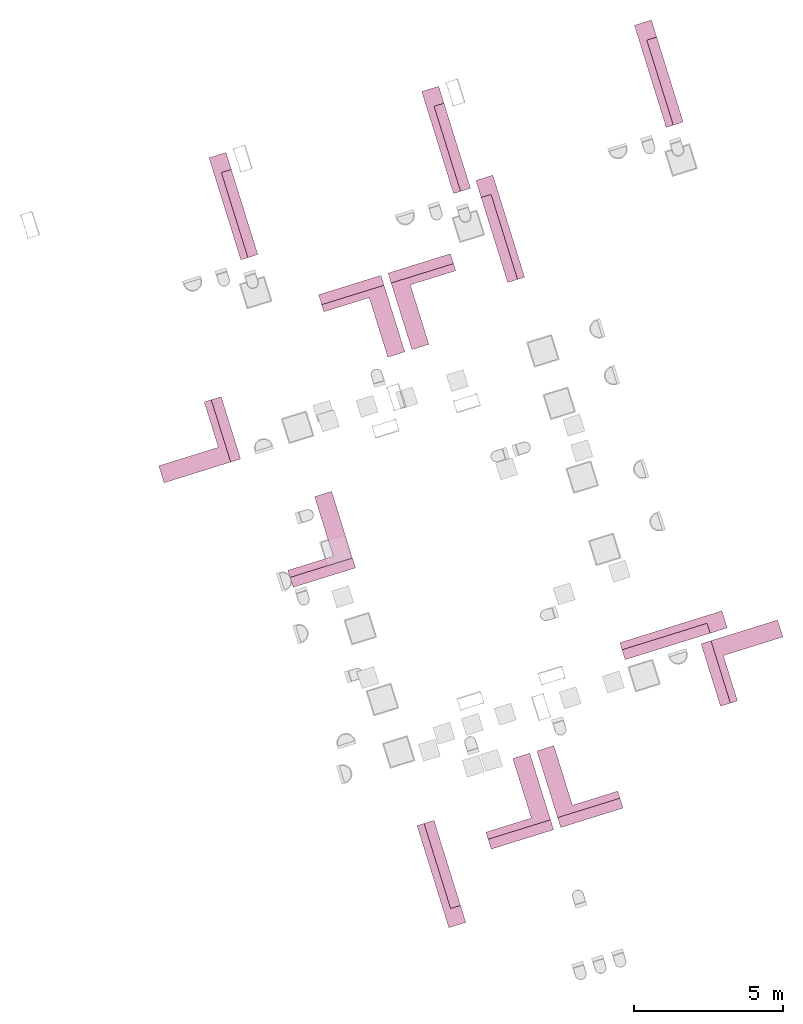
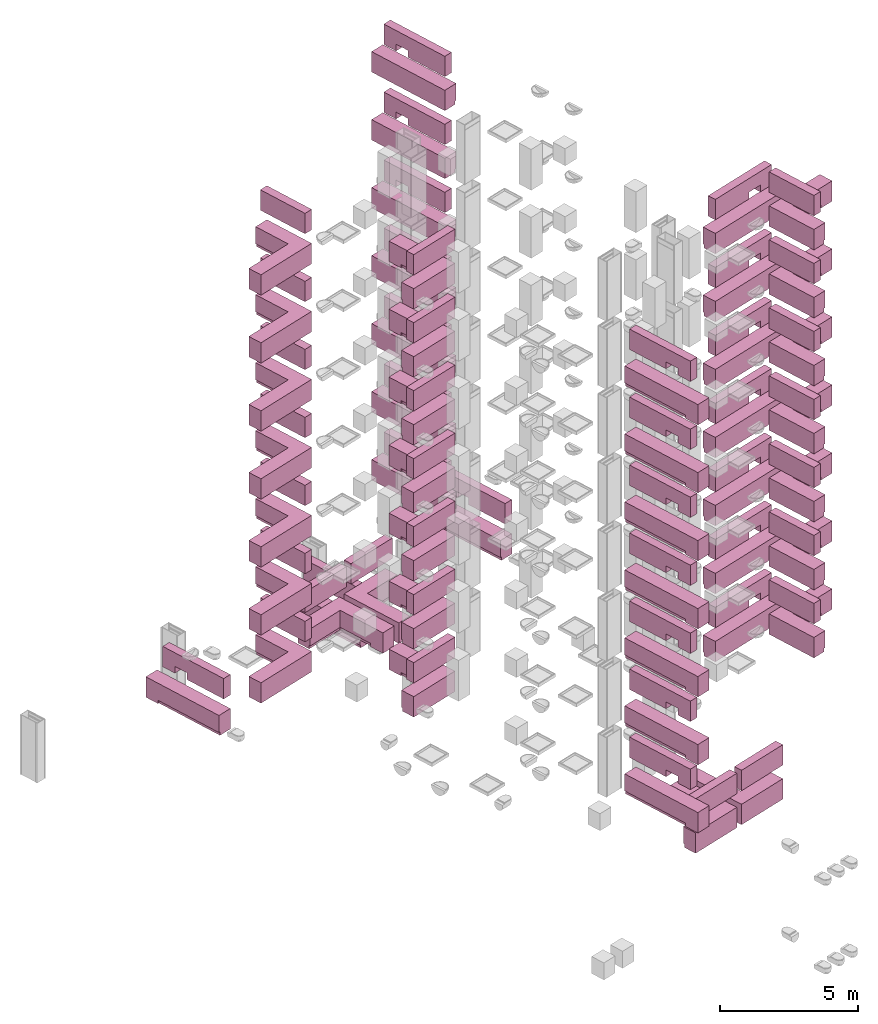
# Not in any storey, part 17 of 17: 49 furniture elements.
"""IFC4 model written with IfcOpenShell, lengths in metres."""

from ifc_helpers import new_model, entity, si_unit, converted_unit, direction, frame, origin, place, context, subcontext, project, indexed_curve, outline, extrude, polygons, source, transform, mapped, material, type_object, type_shapes, element, save


model = new_model("IFC4")

# Units and contexts
model_context = context("Model", 3, precision=1e-05, world=origin(), true_north=direction((6.12323399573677e-17, 1.0)))
body_context = subcontext(model_context, "Body", "Model", "MODEL_VIEW")
ifc_project = project(units=[si_unit("LENGTHUNIT", "METRE"), si_unit("AREAUNIT", "SQUARE_METRE"), converted_unit("PLANEANGLEUNIT", "DEGREE", entity("IfcPlaneAngleMeasure", 0.0174532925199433), si_unit("PLANEANGLEUNIT", "RADIAN"), dimensions=[0, 0, 0, 0, 0, 0, 0]), si_unit("VOLUMEUNIT", "CUBIC_METRE")], contexts=[model_context])

# Furniture
ifc_material = material(Name="<Unnamed>")
furniture_type_1 = type_object("IfcFurnitureType", Name="NLRS_73_CASE_LB_keukenblok L a_gen:keukenblok hoek 2700x2100", AssemblyPlace="NOTDEFINED", PredefinedType="NOTDEFINED", material=ifc_material)
shared_shape_1 = source(origin(), body_context, "Body", "Tessellation", [
    polygons([(0.549999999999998, -2.2, 0.0), (0.549999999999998, -2.2, 0.15), (0.599999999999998, -2.2, 0.15), (0.599999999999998, -2.2, 0.899999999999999), (-1.75965908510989e-15, -2.2, 0.899999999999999), (-1.75965908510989e-15, -2.2, 0.0), (-4.28634905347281e-16, -4.74882355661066e-15, 0.0), (2.1, -5.88809001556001e-15, 0.0), (2.1, -0.550000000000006, 0.0), (0.55, -0.550000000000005, 0.0), (-4.45554704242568e-16, -4.78266315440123e-15, 0.899999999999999), (0.6, -0.600000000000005, 0.899999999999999), (2.1, -0.600000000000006, 0.899999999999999), (2.1, -5.92192961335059e-15, 0.899999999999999), (0.6, -0.600000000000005, 0.15), (2.1, -0.600000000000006, 0.15), (2.1, -0.550000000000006, 0.15), (0.55, -0.550000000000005, 0.15)], [[[1, 2, 3, 4, 5, 6]], [[6, 7, 8, 9, 10, 1]], [[5, 11, 7, 6]], [[4, 12, 13, 14, 11, 5]], [[3, 15, 12, 4]], [[9, 8, 14, 13, 16, 17]], [[11, 14, 8, 7]], [[15, 16, 13, 12]], [[2, 18, 17, 16, 15, 3]], [[1, 10, 18, 2]], [[10, 9, 17, 18]]], closed=True),
    polygons([(2.7, 0.0, 0.899999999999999), (2.1, 0.0, 0.899999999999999), (2.1, -0.599999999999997, 0.899999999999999), (2.7, -0.599999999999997, 0.899999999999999), (2.7, 0.0, 0.0), (2.7, -0.599999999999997, 0.0), (2.1, -0.599999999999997, 0.0), (2.1, 0.0, 0.0)], [[[1, 2, 3, 4]], [[5, 6, 7, 8]], [[4, 6, 5, 1]], [[3, 7, 6, 4]], [[2, 8, 7, 3]], [[1, 5, 8, 2]]], closed=True),
    polygons([(7.03863634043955e-15, -1.54308565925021e-14, 1.5), (7.03863634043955e-15, -1.54308565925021e-14, 2.4), (0.350000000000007, -1.0950194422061e-14, 2.4), (0.350000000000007, -1.0950194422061e-14, 1.5), (0.350000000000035, -2.20000000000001, 2.4), (0.350000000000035, -2.20000000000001, 1.5), (3.51931817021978e-14, -2.20000000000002, 2.4), (3.51931817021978e-14, -2.20000000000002, 1.5)], [[[1, 2, 3, 4]], [[3, 5, 6, 4]], [[2, 7, 5, 3]], [[1, 8, 7, 2]], [[8, 6, 5, 7]], [[4, 6, 8, 1]]], closed=True),
])
type_shapes(furniture_type_1, [shared_shape_1])
placement_1 = place(None, frame((13.1347999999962, 11.9886000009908, 0.0), z_axis=(0.0, 0.0, 1.0), x_axis=(0.954770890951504, 0.297342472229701, 0.0)))
placement_2 = place(placement_1, origin())
placement_3 = place(placement_2, frame((0.0, 0.0, 6.9)))
placement_4 = place(placement_3, origin())
furniture_1_placement = place(placement_4, frame((75.2250000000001, 11.7749999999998, 0.0)))
element("IfcFurniture", 1, at=furniture_1_placement, type_object=furniture_type_1, material=ifc_material, Name="NLRS_73_CASE_LB_keukenblok L a_gen:keukenblok hoek 2700x2100", ObjectType="NLRS_73_CASE_LB_keukenblok L a_gen:keukenblok hoek 2700x2100", PredefinedType="NOTDEFINED", context=body_context, shape_type="MappedRepresentation", body=[
    mapped(shared_shape_1, transform((0.0, 0.0, 0.0), scale=1.0)),
])
placement_5 = place(placement_2, frame((0.0, 0.0, 9.9)))
placement_6 = place(placement_5, origin())
furniture_2_placement = place(placement_6, frame((75.2250000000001, 11.7749999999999, 0.0)))
element("IfcFurniture", 2, at=furniture_2_placement, type_object=furniture_type_1, material=ifc_material, Name="NLRS_73_CASE_LB_keukenblok L a_gen:keukenblok hoek 2700x2100", ObjectType="NLRS_73_CASE_LB_keukenblok L a_gen:keukenblok hoek 2700x2100", PredefinedType="NOTDEFINED", context=body_context, shape_type="MappedRepresentation", body=[
    mapped(shared_shape_1, transform((0.0, 0.0, 0.0), scale=1.0)),
])
placement_7 = place(placement_2, frame((0.0, 0.0, 12.9)))
placement_8 = place(placement_7, origin())
furniture_3_placement = place(placement_8, frame((75.2250000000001, 11.7749999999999, 0.0)))
element("IfcFurniture", 3, at=furniture_3_placement, type_object=furniture_type_1, material=ifc_material, Name="NLRS_73_CASE_LB_keukenblok L a_gen:keukenblok hoek 2700x2100", ObjectType="NLRS_73_CASE_LB_keukenblok L a_gen:keukenblok hoek 2700x2100", PredefinedType="NOTDEFINED", context=body_context, shape_type="MappedRepresentation", body=[
    mapped(shared_shape_1, transform((0.0, 0.0, 0.0), scale=1.0)),
])
placement_9 = place(placement_2, frame((0.0, 0.0, 15.9)))
placement_10 = place(placement_9, origin())
furniture_4_placement = place(placement_10, frame((75.2250000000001, 11.7749999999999, 0.0)))
element("IfcFurniture", 4, at=furniture_4_placement, type_object=furniture_type_1, material=ifc_material, Name="NLRS_73_CASE_LB_keukenblok L a_gen:keukenblok hoek 2700x2100", ObjectType="NLRS_73_CASE_LB_keukenblok L a_gen:keukenblok hoek 2700x2100", PredefinedType="NOTDEFINED", context=body_context, shape_type="MappedRepresentation", body=[
    mapped(shared_shape_1, transform((0.0, 0.0, 0.0), scale=1.0)),
])
placement_11 = place(placement_2, frame((0.0, 0.0, 18.9)))
placement_12 = place(placement_11, origin())
furniture_5_placement = place(placement_12, frame((75.2250000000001, 11.7749999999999, 0.0)))
element("IfcFurniture", 5, at=furniture_5_placement, type_object=furniture_type_1, material=ifc_material, Name="NLRS_73_CASE_LB_keukenblok L a_gen:keukenblok hoek 2700x2100", ObjectType="NLRS_73_CASE_LB_keukenblok L a_gen:keukenblok hoek 2700x2100", PredefinedType="NOTDEFINED", context=body_context, shape_type="MappedRepresentation", body=[
    mapped(shared_shape_1, transform((0.0, 0.0, 0.0), scale=1.0)),
])
placement_13 = place(placement_2, frame((0.0, 0.0, 21.9)))
placement_14 = place(placement_13, origin())
furniture_6_placement = place(placement_14, frame((75.2250000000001, 11.7749999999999, 0.0)))
element("IfcFurniture", 6, at=furniture_6_placement, type_object=furniture_type_1, material=ifc_material, Name="NLRS_73_CASE_LB_keukenblok L a_gen:keukenblok hoek 2700x2100", ObjectType="NLRS_73_CASE_LB_keukenblok L a_gen:keukenblok hoek 2700x2100", PredefinedType="NOTDEFINED", context=body_context, shape_type="MappedRepresentation", body=[
    mapped(shared_shape_1, transform((0.0, 0.0, 0.0), scale=1.0)),
])
placement_15 = place(placement_2, frame((0.0, 0.0, 24.9)))
placement_16 = place(placement_15, origin())
furniture_7_placement = place(placement_16, frame((75.2250000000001, 11.7749999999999, 0.0)))
element("IfcFurniture", 7, at=furniture_7_placement, type_object=furniture_type_1, material=ifc_material, Name="NLRS_73_CASE_LB_keukenblok L a_gen:keukenblok hoek 2700x2100", ObjectType="NLRS_73_CASE_LB_keukenblok L a_gen:keukenblok hoek 2700x2100", PredefinedType="NOTDEFINED", context=body_context, shape_type="MappedRepresentation", body=[
    mapped(shared_shape_1, transform((0.0, 0.0, 0.0), scale=1.0)),
])
placement_17 = place(placement_3, origin())
furniture_8_placement = place(placement_17, frame((62.2749999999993, 22.325, 0.0), z_axis=(0.0, 0.0, 1.0), x_axis=(-1.0, 0.0, 0.0)))
element("IfcFurniture", 8, at=furniture_8_placement, type_object=furniture_type_1, material=ifc_material, Name="NLRS_73_CASE_LB_keukenblok L a_gen:keukenblok hoek 2700x2100", ObjectType="NLRS_73_CASE_LB_keukenblok L a_gen:keukenblok hoek 2700x2100", PredefinedType="NOTDEFINED", context=body_context, shape_type="MappedRepresentation", body=[
    mapped(shared_shape_1, transform((0.0, 0.0, 0.0), scale=1.0)),
])
placement_18 = place(placement_5, origin())
furniture_9_placement = place(placement_18, frame((62.2749999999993, 22.325, 0.0), z_axis=(0.0, 0.0, 1.0), x_axis=(-1.0, 0.0, 0.0)))
element("IfcFurniture", 9, at=furniture_9_placement, type_object=furniture_type_1, material=ifc_material, Name="NLRS_73_CASE_LB_keukenblok L a_gen:keukenblok hoek 2700x2100", ObjectType="NLRS_73_CASE_LB_keukenblok L a_gen:keukenblok hoek 2700x2100", PredefinedType="NOTDEFINED", context=body_context, shape_type="MappedRepresentation", body=[
    mapped(shared_shape_1, transform((0.0, 0.0, 0.0), scale=1.0)),
])
placement_19 = place(placement_7, origin())
furniture_10_placement = place(placement_19, frame((62.2749999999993, 22.325, 0.0), z_axis=(0.0, 0.0, 1.0), x_axis=(-1.0, 0.0, 0.0)))
element("IfcFurniture", 10, at=furniture_10_placement, type_object=furniture_type_1, material=ifc_material, Name="NLRS_73_CASE_LB_keukenblok L a_gen:keukenblok hoek 2700x2100", ObjectType="NLRS_73_CASE_LB_keukenblok L a_gen:keukenblok hoek 2700x2100", PredefinedType="NOTDEFINED", context=body_context, shape_type="MappedRepresentation", body=[
    mapped(shared_shape_1, transform((0.0, 0.0, 0.0), scale=1.0)),
])
placement_20 = place(placement_9, origin())
furniture_11_placement = place(placement_20, frame((62.2749999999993, 22.325, 0.0), z_axis=(0.0, 0.0, 1.0), x_axis=(-1.0, 0.0, 0.0)))
element("IfcFurniture", 11, at=furniture_11_placement, type_object=furniture_type_1, material=ifc_material, Name="NLRS_73_CASE_LB_keukenblok L a_gen:keukenblok hoek 2700x2100", ObjectType="NLRS_73_CASE_LB_keukenblok L a_gen:keukenblok hoek 2700x2100", PredefinedType="NOTDEFINED", context=body_context, shape_type="MappedRepresentation", body=[
    mapped(shared_shape_1, transform((0.0, 0.0, 0.0), scale=1.0)),
])
placement_21 = place(placement_11, origin())
furniture_12_placement = place(placement_21, frame((62.2749999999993, 22.325, 0.0), z_axis=(0.0, 0.0, 1.0), x_axis=(-1.0, 0.0, 0.0)))
element("IfcFurniture", 12, at=furniture_12_placement, type_object=furniture_type_1, material=ifc_material, Name="NLRS_73_CASE_LB_keukenblok L a_gen:keukenblok hoek 2700x2100", ObjectType="NLRS_73_CASE_LB_keukenblok L a_gen:keukenblok hoek 2700x2100", PredefinedType="NOTDEFINED", context=body_context, shape_type="MappedRepresentation", body=[
    mapped(shared_shape_1, transform((0.0, 0.0, 0.0), scale=1.0)),
])
placement_22 = place(placement_13, origin())
furniture_13_placement = place(placement_22, frame((62.2749999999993, 22.325, 0.0), z_axis=(0.0, 0.0, 1.0), x_axis=(-1.0, 0.0, 0.0)))
element("IfcFurniture", 13, at=furniture_13_placement, type_object=furniture_type_1, material=ifc_material, Name="NLRS_73_CASE_LB_keukenblok L a_gen:keukenblok hoek 2700x2100", ObjectType="NLRS_73_CASE_LB_keukenblok L a_gen:keukenblok hoek 2700x2100", PredefinedType="NOTDEFINED", context=body_context, shape_type="MappedRepresentation", body=[
    mapped(shared_shape_1, transform((0.0, 0.0, 0.0), scale=1.0)),
])
placement_23 = place(placement_15, origin())
furniture_14_placement = place(placement_23, frame((62.2749999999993, 22.325, 0.0), z_axis=(0.0, 0.0, 1.0), x_axis=(-1.0, 0.0, 0.0)))
element("IfcFurniture", 14, at=furniture_14_placement, type_object=furniture_type_1, material=ifc_material, Name="NLRS_73_CASE_LB_keukenblok L a_gen:keukenblok hoek 2700x2100", ObjectType="NLRS_73_CASE_LB_keukenblok L a_gen:keukenblok hoek 2700x2100", PredefinedType="NOTDEFINED", context=body_context, shape_type="MappedRepresentation", body=[
    mapped(shared_shape_1, transform((0.0, 0.0, 0.0), scale=1.0)),
])
placement_24 = place(placement_2, frame((0.0, 0.0, 3.9)))
placement_25 = place(placement_24, origin())
furniture_15_placement = place(placement_25, frame((68.875, 7.27500000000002, 0.0), z_axis=(0.0, 0.0, 1.0), x_axis=(0.0, 1.0, 0.0)))
element("IfcFurniture", 15, at=furniture_15_placement, type_object=furniture_type_1, material=ifc_material, Name="NLRS_73_CASE_LB_keukenblok L a_gen:keukenblok hoek 2700x2100", ObjectType="NLRS_73_CASE_LB_keukenblok L a_gen:keukenblok hoek 2700x2100", PredefinedType="NOTDEFINED", context=body_context, shape_type="MappedRepresentation", body=[
    mapped(shared_shape_1, transform((0.0, 0.0, 0.0), scale=1.0)),
])
placement_26 = place(placement_24, origin())
furniture_16_placement = place(placement_26, frame((68.6249999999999, 26.8249999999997, 0.0), z_axis=(0.0, 0.0, 1.0), x_axis=(0.0, -1.0, 0.0)))
element("IfcFurniture", 16, at=furniture_16_placement, type_object=furniture_type_1, material=ifc_material, Name="NLRS_73_CASE_LB_keukenblok L a_gen:keukenblok hoek 2700x2100", ObjectType="NLRS_73_CASE_LB_keukenblok L a_gen:keukenblok hoek 2700x2100", PredefinedType="NOTDEFINED", context=body_context, shape_type="MappedRepresentation", body=[
    mapped(shared_shape_1, transform((0.0, 0.0, 0.0), scale=1.0)),
])
furniture_type_2 = type_object("IfcFurnitureType", Name="NLRS_73_CASE_LB_keukenblok a_gen:keukenblok 3200", AssemblyPlace="NOTDEFINED", PredefinedType="NOTDEFINED", material=ifc_material)
shared_shape_2 = source(origin(), body_context, "Body", "SweptSolid", [
    extrude(outline(indexed_curve([(-0.35, 0.166666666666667), (-0.35, -0.383333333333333), (0.55, -0.383333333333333), (0.55, 0.216666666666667), (-0.2, 0.216666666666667), (-0.2, 0.166666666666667), (-0.35, 0.166666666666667)], self_intersect=False)), frame((0.0, 0.383333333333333, 0.35), z_axis=(-1.0, 0.0, 0.0), x_axis=(0.0, 0.0, 1.0)), (0.0, 0.0, -1.0), 3.00000000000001),
    extrude(outline(indexed_curve([(-0.299999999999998, -0.3), (0.299999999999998, -0.3), (0.299999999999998, 0.3), (-0.299999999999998, 0.3), (-0.299999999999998, -0.3)], self_intersect=False)), frame((3.3, 0.299999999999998, 0.0), z_axis=(0.0, 0.0, 1.0), x_axis=(0.0, 1.0, 0.0)), (0.0, 0.0, 1.0), 0.9),
    extrude(outline(indexed_curve([(-1.19999999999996, -0.299999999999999), (-0.60000000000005, -0.299999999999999), (-0.60000000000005, -5.41433564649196e-16), (-5.00826047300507e-14, -5.41433564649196e-16), (-4.98118879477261e-14, -0.299999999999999), (1.80000000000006, -0.299999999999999), (1.80000000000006, 0.6), (-1.19999999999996, 0.6), (-1.19999999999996, -0.299999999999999)], self_intersect=False)), frame((1.80000000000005, 0.0, 1.8), z_axis=(0.0, 1.0, 0.0), x_axis=(-1.0, 0.0, 0.0)), (0.0, 0.0, 1.0), 0.349999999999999),
])
type_shapes(furniture_type_2, [shared_shape_2])
placement_27 = place(placement_2, origin())
placement_28 = place(placement_27, origin())
furniture_17_placement = place(placement_28, frame((64.8750000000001, 28.7249999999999, 0.0), z_axis=(0.0, 0.0, 1.0), x_axis=(0.0, 1.0, 0.0)))
element("IfcFurniture", 17, at=furniture_17_placement, type_object=furniture_type_2, material=ifc_material, Name="NLRS_73_CASE_LB_keukenblok a_gen:keukenblok 3200", ObjectType="NLRS_73_CASE_LB_keukenblok a_gen:keukenblok 3200", PredefinedType="NOTDEFINED", context=body_context, shape_type="MappedRepresentation", body=[
    mapped(shared_shape_2, transform((0.0, 0.0, 0.0), scale=1.0)),
])
placement_29 = place(placement_27, origin())
furniture_18_placement = place(placement_29, frame((72.3750000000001, 28.7249999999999, 0.0), z_axis=(0.0, 0.0, 1.0), x_axis=(0.0, 1.0, 0.0)))
element("IfcFurniture", 18, at=furniture_18_placement, type_object=furniture_type_2, material=ifc_material, Name="NLRS_73_CASE_LB_keukenblok a_gen:keukenblok 3200", ObjectType="NLRS_73_CASE_LB_keukenblok a_gen:keukenblok 3200", PredefinedType="NOTDEFINED", context=body_context, shape_type="MappedRepresentation", body=[
    mapped(shared_shape_2, transform((0.0, 0.0, 0.0), scale=1.0)),
])
placement_30 = place(placement_27, origin())
furniture_19_placement = place(placement_30, frame((79.875, 28.7249999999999, 0.0), z_axis=(0.0, 0.0, 1.0), x_axis=(0.0, 1.0, 0.0)))
element("IfcFurniture", 19, at=furniture_19_placement, type_object=furniture_type_2, material=ifc_material, Name="NLRS_73_CASE_LB_keukenblok a_gen:keukenblok 3200", ObjectType="NLRS_73_CASE_LB_keukenblok a_gen:keukenblok 3200", PredefinedType="NOTDEFINED", context=body_context, shape_type="MappedRepresentation", body=[
    mapped(shared_shape_2, transform((0.0, 0.0, 0.0), scale=1.0)),
])
placement_31 = place(placement_3, origin())
furniture_20_placement = place(placement_31, frame((72.625, 12.0249999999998, 0.0)))
element("IfcFurniture", 20, at=furniture_20_placement, type_object=furniture_type_2, material=ifc_material, Name="NLRS_73_CASE_LB_keukenblok a_gen:keukenblok 3200", ObjectType="NLRS_73_CASE_LB_keukenblok a_gen:keukenblok 3200", PredefinedType="NOTDEFINED", context=body_context, shape_type="MappedRepresentation", body=[
    mapped(shared_shape_2, transform((0.0, 0.0, 0.0), scale=1.0)),
])
placement_32 = place(placement_5, origin())
furniture_21_placement = place(placement_32, frame((72.625, 12.0249999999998, 0.0)))
element("IfcFurniture", 21, at=furniture_21_placement, type_object=furniture_type_2, material=ifc_material, Name="NLRS_73_CASE_LB_keukenblok a_gen:keukenblok 3200", ObjectType="NLRS_73_CASE_LB_keukenblok a_gen:keukenblok 3200", PredefinedType="NOTDEFINED", context=body_context, shape_type="MappedRepresentation", body=[
    mapped(shared_shape_2, transform((0.0, 0.0, 0.0), scale=1.0)),
])
placement_33 = place(placement_7, origin())
furniture_22_placement = place(placement_33, frame((72.625, 12.0249999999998, 0.0)))
element("IfcFurniture", 22, at=furniture_22_placement, type_object=furniture_type_2, material=ifc_material, Name="NLRS_73_CASE_LB_keukenblok a_gen:keukenblok 3200", ObjectType="NLRS_73_CASE_LB_keukenblok a_gen:keukenblok 3200", PredefinedType="NOTDEFINED", context=body_context, shape_type="MappedRepresentation", body=[
    mapped(shared_shape_2, transform((0.0, 0.0, 0.0), scale=1.0)),
])
placement_34 = place(placement_9, origin())
furniture_23_placement = place(placement_34, frame((72.625, 12.0249999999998, 0.0)))
element("IfcFurniture", 23, at=furniture_23_placement, type_object=furniture_type_2, material=ifc_material, Name="NLRS_73_CASE_LB_keukenblok a_gen:keukenblok 3200", ObjectType="NLRS_73_CASE_LB_keukenblok a_gen:keukenblok 3200", PredefinedType="NOTDEFINED", context=body_context, shape_type="MappedRepresentation", body=[
    mapped(shared_shape_2, transform((0.0, 0.0, 0.0), scale=1.0)),
])
placement_35 = place(placement_11, origin())
furniture_24_placement = place(placement_35, frame((72.625, 12.0249999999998, 0.0)))
element("IfcFurniture", 24, at=furniture_24_placement, type_object=furniture_type_2, material=ifc_material, Name="NLRS_73_CASE_LB_keukenblok a_gen:keukenblok 3200", ObjectType="NLRS_73_CASE_LB_keukenblok a_gen:keukenblok 3200", PredefinedType="NOTDEFINED", context=body_context, shape_type="MappedRepresentation", body=[
    mapped(shared_shape_2, transform((0.0, 0.0, 0.0), scale=1.0)),
])
placement_36 = place(placement_13, origin())
furniture_25_placement = place(placement_36, frame((72.625, 12.0249999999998, 0.0)))
element("IfcFurniture", 25, at=furniture_25_placement, type_object=furniture_type_2, material=ifc_material, Name="NLRS_73_CASE_LB_keukenblok a_gen:keukenblok 3200", ObjectType="NLRS_73_CASE_LB_keukenblok a_gen:keukenblok 3200", PredefinedType="NOTDEFINED", context=body_context, shape_type="MappedRepresentation", body=[
    mapped(shared_shape_2, transform((0.0, 0.0, 0.0), scale=1.0)),
])
placement_37 = place(placement_15, origin())
furniture_26_placement = place(placement_37, frame((72.625, 12.0249999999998, 0.0)))
element("IfcFurniture", 26, at=furniture_26_placement, type_object=furniture_type_2, material=ifc_material, Name="NLRS_73_CASE_LB_keukenblok a_gen:keukenblok 3200", ObjectType="NLRS_73_CASE_LB_keukenblok a_gen:keukenblok 3200", PredefinedType="NOTDEFINED", context=body_context, shape_type="MappedRepresentation", body=[
    mapped(shared_shape_2, transform((0.0, 0.0, 0.0), scale=1.0)),
])
furniture_type_3 = type_object("IfcFurnitureType", Name="NLRS_73_CASE_LB_keukenblok a_gen:keukenblok 3200", AssemblyPlace="NOTDEFINED", PredefinedType="NOTDEFINED", material=ifc_material)
shared_shape_3 = source(origin(), body_context, "Body", "SweptSolid", [
    extrude(outline(indexed_curve([(-0.166666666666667, -0.35), (0.383333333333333, -0.35), (0.383333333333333, 0.55), (-0.216666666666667, 0.55), (-0.216666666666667, -0.2), (-0.166666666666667, -0.2), (-0.166666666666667, -0.35)], self_intersect=False)), frame((0.0, -0.383333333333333, 0.35), z_axis=(1.0, 0.0, 0.0), x_axis=(0.0, 1.0, 0.0)), (0.0, 0.0, 1.0), 3.00000000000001),
    extrude(outline(indexed_curve([(-0.3, -0.299999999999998), (0.3, -0.299999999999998), (0.3, 0.299999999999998), (-0.3, 0.299999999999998), (-0.3, -0.299999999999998)], self_intersect=False)), frame((3.3, -0.299999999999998, 0.0), z_axis=(0.0, 0.0, 1.0), x_axis=(-1.0, 0.0, 0.0)), (0.0, 0.0, 1.0), 0.9),
    extrude(outline(indexed_curve([(-0.6, -1.19999999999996), (0.299999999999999, -1.19999999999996), (0.299999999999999, -0.600000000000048), (5.41433564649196e-16, -0.600000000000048), (5.41433564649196e-16, -4.81875872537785e-14), (0.299999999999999, -4.81875872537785e-14), (0.299999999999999, 1.80000000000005), (-0.6, 1.80000000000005), (-0.6, -1.19999999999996)], self_intersect=False)), frame((1.80000000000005, -0.34999999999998, 1.8), z_axis=(0.0, 1.0, 0.0), x_axis=(0.0, 0.0, -1.0)), (0.0, 0.0, 1.0), 0.349999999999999),
])
type_shapes(furniture_type_3, [shared_shape_3])
placement_38 = place(placement_3, origin())
furniture_27_placement = place(placement_38, frame((64.875, 8.77499999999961, 0.0), z_axis=(0.0, 0.0, 1.0), x_axis=(0.0, -1.0, 0.0)))
element("IfcFurniture", 27, at=furniture_27_placement, type_object=furniture_type_3, material=ifc_material, Name="NLRS_73_CASE_LB_keukenblok a_gen:keukenblok 3200", ObjectType="NLRS_73_CASE_LB_keukenblok a_gen:keukenblok 3200", PredefinedType="NOTDEFINED", context=body_context, shape_type="MappedRepresentation", body=[
    mapped(shared_shape_3, transform((0.0, 0.0, 0.0), scale=1.0)),
])
placement_39 = place(placement_5, origin())
furniture_28_placement = place(placement_39, frame((64.875, 8.77499999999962, 0.0), z_axis=(0.0, 0.0, 1.0), x_axis=(0.0, -1.0, 0.0)))
element("IfcFurniture", 28, at=furniture_28_placement, type_object=furniture_type_3, material=ifc_material, Name="NLRS_73_CASE_LB_keukenblok a_gen:keukenblok 3200", ObjectType="NLRS_73_CASE_LB_keukenblok a_gen:keukenblok 3200", PredefinedType="NOTDEFINED", context=body_context, shape_type="MappedRepresentation", body=[
    mapped(shared_shape_3, transform((0.0, 0.0, 0.0), scale=1.0)),
])
placement_40 = place(placement_7, origin())
furniture_29_placement = place(placement_40, frame((64.875, 8.77499999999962, 0.0), z_axis=(0.0, 0.0, 1.0), x_axis=(0.0, -1.0, 0.0)))
element("IfcFurniture", 29, at=furniture_29_placement, type_object=furniture_type_3, material=ifc_material, Name="NLRS_73_CASE_LB_keukenblok a_gen:keukenblok 3200", ObjectType="NLRS_73_CASE_LB_keukenblok a_gen:keukenblok 3200", PredefinedType="NOTDEFINED", context=body_context, shape_type="MappedRepresentation", body=[
    mapped(shared_shape_3, transform((0.0, 0.0, 0.0), scale=1.0)),
])
placement_41 = place(placement_9, origin())
furniture_30_placement = place(placement_41, frame((64.875, 8.77499999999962, 0.0), z_axis=(0.0, 0.0, 1.0), x_axis=(0.0, -1.0, 0.0)))
element("IfcFurniture", 30, at=furniture_30_placement, type_object=furniture_type_3, material=ifc_material, Name="NLRS_73_CASE_LB_keukenblok a_gen:keukenblok 3200", ObjectType="NLRS_73_CASE_LB_keukenblok a_gen:keukenblok 3200", PredefinedType="NOTDEFINED", context=body_context, shape_type="MappedRepresentation", body=[
    mapped(shared_shape_3, transform((0.0, 0.0, 0.0), scale=1.0)),
])
placement_42 = place(placement_11, origin())
furniture_31_placement = place(placement_42, frame((64.875, 8.77499999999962, 0.0), z_axis=(0.0, 0.0, 1.0), x_axis=(0.0, -1.0, 0.0)))
element("IfcFurniture", 31, at=furniture_31_placement, type_object=furniture_type_3, material=ifc_material, Name="NLRS_73_CASE_LB_keukenblok a_gen:keukenblok 3200", ObjectType="NLRS_73_CASE_LB_keukenblok a_gen:keukenblok 3200", PredefinedType="NOTDEFINED", context=body_context, shape_type="MappedRepresentation", body=[
    mapped(shared_shape_3, transform((0.0, 0.0, 0.0), scale=1.0)),
])
placement_43 = place(placement_13, origin())
furniture_32_placement = place(placement_43, frame((64.875, 8.77499999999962, 0.0), z_axis=(0.0, 0.0, 1.0), x_axis=(0.0, -1.0, 0.0)))
element("IfcFurniture", 32, at=furniture_32_placement, type_object=furniture_type_3, material=ifc_material, Name="NLRS_73_CASE_LB_keukenblok a_gen:keukenblok 3200", ObjectType="NLRS_73_CASE_LB_keukenblok a_gen:keukenblok 3200", PredefinedType="NOTDEFINED", context=body_context, shape_type="MappedRepresentation", body=[
    mapped(shared_shape_3, transform((0.0, 0.0, 0.0), scale=1.0)),
])
placement_44 = place(placement_15, origin())
furniture_33_placement = place(placement_44, frame((64.875, 8.77499999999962, 0.0), z_axis=(0.0, 0.0, 1.0), x_axis=(0.0, -1.0, 0.0)))
element("IfcFurniture", 33, at=furniture_33_placement, type_object=furniture_type_3, material=ifc_material, Name="NLRS_73_CASE_LB_keukenblok a_gen:keukenblok 3200", ObjectType="NLRS_73_CASE_LB_keukenblok a_gen:keukenblok 3200", PredefinedType="NOTDEFINED", context=body_context, shape_type="MappedRepresentation", body=[
    mapped(shared_shape_3, transform((0.0, 0.0, 0.0), scale=1.0)),
])
placement_45 = place(placement_3, origin())
furniture_34_placement = place(placement_45, frame((72.6249999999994, 25.3250000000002, 0.0), z_axis=(0.0, 0.0, 1.0), x_axis=(0.0, 1.0, 0.0)))
element("IfcFurniture", 34, at=furniture_34_placement, type_object=furniture_type_3, material=ifc_material, Name="NLRS_73_CASE_LB_keukenblok a_gen:keukenblok 3200", ObjectType="NLRS_73_CASE_LB_keukenblok a_gen:keukenblok 3200", PredefinedType="NOTDEFINED", context=body_context, shape_type="MappedRepresentation", body=[
    mapped(shared_shape_3, transform((0.0, 0.0, 0.0), scale=1.0)),
])
placement_46 = place(placement_5, origin())
furniture_35_placement = place(placement_46, frame((72.6249999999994, 25.3250000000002, 0.0), z_axis=(0.0, 0.0, 1.0), x_axis=(0.0, 1.0, 0.0)))
element("IfcFurniture", 35, at=furniture_35_placement, type_object=furniture_type_3, material=ifc_material, Name="NLRS_73_CASE_LB_keukenblok a_gen:keukenblok 3200", ObjectType="NLRS_73_CASE_LB_keukenblok a_gen:keukenblok 3200", PredefinedType="NOTDEFINED", context=body_context, shape_type="MappedRepresentation", body=[
    mapped(shared_shape_3, transform((0.0, 0.0, 0.0), scale=1.0)),
])
placement_47 = place(placement_7, origin())
furniture_36_placement = place(placement_47, frame((72.6249999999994, 25.3250000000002, 0.0), z_axis=(0.0, 0.0, 1.0), x_axis=(0.0, 1.0, 0.0)))
element("IfcFurniture", 36, at=furniture_36_placement, type_object=furniture_type_3, material=ifc_material, Name="NLRS_73_CASE_LB_keukenblok a_gen:keukenblok 3200", ObjectType="NLRS_73_CASE_LB_keukenblok a_gen:keukenblok 3200", PredefinedType="NOTDEFINED", context=body_context, shape_type="MappedRepresentation", body=[
    mapped(shared_shape_3, transform((0.0, 0.0, 0.0), scale=1.0)),
])
placement_48 = place(placement_9, origin())
furniture_37_placement = place(placement_48, frame((72.6249999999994, 25.3250000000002, 0.0), z_axis=(0.0, 0.0, 1.0), x_axis=(0.0, 1.0, 0.0)))
element("IfcFurniture", 37, at=furniture_37_placement, type_object=furniture_type_3, material=ifc_material, Name="NLRS_73_CASE_LB_keukenblok a_gen:keukenblok 3200", ObjectType="NLRS_73_CASE_LB_keukenblok a_gen:keukenblok 3200", PredefinedType="NOTDEFINED", context=body_context, shape_type="MappedRepresentation", body=[
    mapped(shared_shape_3, transform((0.0, 0.0, 0.0), scale=1.0)),
])
placement_49 = place(placement_11, origin())
furniture_38_placement = place(placement_49, frame((72.6249999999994, 25.3250000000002, 0.0), z_axis=(0.0, 0.0, 1.0), x_axis=(0.0, 1.0, 0.0)))
element("IfcFurniture", 38, at=furniture_38_placement, type_object=furniture_type_3, material=ifc_material, Name="NLRS_73_CASE_LB_keukenblok a_gen:keukenblok 3200", ObjectType="NLRS_73_CASE_LB_keukenblok a_gen:keukenblok 3200", PredefinedType="NOTDEFINED", context=body_context, shape_type="MappedRepresentation", body=[
    mapped(shared_shape_3, transform((0.0, 0.0, 0.0), scale=1.0)),
])
placement_50 = place(placement_13, origin())
furniture_39_placement = place(placement_50, frame((72.6249999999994, 25.3250000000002, 0.0), z_axis=(0.0, 0.0, 1.0), x_axis=(0.0, 1.0, 0.0)))
element("IfcFurniture", 39, at=furniture_39_placement, type_object=furniture_type_3, material=ifc_material, Name="NLRS_73_CASE_LB_keukenblok a_gen:keukenblok 3200", ObjectType="NLRS_73_CASE_LB_keukenblok a_gen:keukenblok 3200", PredefinedType="NOTDEFINED", context=body_context, shape_type="MappedRepresentation", body=[
    mapped(shared_shape_3, transform((0.0, 0.0, 0.0), scale=1.0)),
])
placement_51 = place(placement_15, origin())
furniture_40_placement = place(placement_51, frame((72.6249999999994, 25.3250000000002, 0.0), z_axis=(0.0, 0.0, 1.0), x_axis=(0.0, 1.0, 0.0)))
element("IfcFurniture", 40, at=furniture_40_placement, type_object=furniture_type_3, material=ifc_material, Name="NLRS_73_CASE_LB_keukenblok a_gen:keukenblok 3200", ObjectType="NLRS_73_CASE_LB_keukenblok a_gen:keukenblok 3200", PredefinedType="NOTDEFINED", context=body_context, shape_type="MappedRepresentation", body=[
    mapped(shared_shape_3, transform((0.0, 0.0, 0.0), scale=1.0)),
])
furniture_type_4 = type_object("IfcFurnitureType", Name="NLRS_73_CASE_LB_keukenblok L a_gen:keukenblok hoek 2700x2100", AssemblyPlace="NOTDEFINED", PredefinedType="NOTDEFINED", material=ifc_material)
shared_shape_4 = source(origin(), body_context, "Body", "Tessellation", [
    polygons([(0.549999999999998, 2.2, 0.0), (-1.75965908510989e-15, 2.2, 0.0), (-1.75965908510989e-15, 2.2, 0.899999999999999), (0.599999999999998, 2.2, 0.899999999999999), (0.599999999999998, 2.2, 0.15), (0.549999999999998, 2.2, 0.15), (0.55, 0.550000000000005, 0.0), (2.1, 0.550000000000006, 0.0), (2.1, 5.88809001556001e-15, 0.0), (-4.28634905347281e-16, 4.74882355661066e-15, 0.0), (-4.45554704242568e-16, 4.78266315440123e-15, 0.899999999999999), (2.1, 5.92192961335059e-15, 0.899999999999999), (2.1, 0.600000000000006, 0.899999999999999), (0.6, 0.600000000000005, 0.899999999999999), (0.6, 0.600000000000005, 0.15), (2.1, 0.550000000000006, 0.15), (2.1, 0.600000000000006, 0.15), (0.55, 0.550000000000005, 0.15)], [[[1, 2, 3, 4, 5, 6]], [[2, 1, 7, 8, 9, 10]], [[3, 2, 10, 11]], [[4, 3, 11, 12, 13, 14]], [[5, 4, 14, 15]], [[8, 16, 17, 13, 12, 9]], [[11, 10, 9, 12]], [[15, 14, 13, 17]], [[6, 5, 15, 17, 16, 18]], [[1, 6, 18, 7]], [[7, 18, 16, 8]]], closed=True),
    polygons([(2.7, 0.0, 0.899999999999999), (2.7, 0.599999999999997, 0.899999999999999), (2.1, 0.599999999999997, 0.899999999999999), (2.1, 0.0, 0.899999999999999), (2.7, 0.0, 0.0), (2.1, 0.0, 0.0), (2.1, 0.599999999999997, 0.0), (2.7, 0.599999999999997, 0.0)], [[[1, 2, 3, 4]], [[5, 6, 7, 8]], [[2, 1, 5, 8]], [[3, 2, 8, 7]], [[4, 3, 7, 6]], [[1, 4, 6, 5]]], closed=True),
    polygons([(7.03863634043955e-15, 1.54308565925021e-14, 1.5), (0.350000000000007, 1.0950194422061e-14, 1.5), (0.350000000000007, 1.0950194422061e-14, 2.4), (7.03863634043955e-15, 1.54308565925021e-14, 2.4), (0.350000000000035, 2.20000000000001, 1.5), (0.350000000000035, 2.20000000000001, 2.4), (3.51931817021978e-14, 2.20000000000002, 2.4), (3.51931817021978e-14, 2.20000000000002, 1.5)], [[[1, 2, 3, 4]], [[3, 2, 5, 6]], [[4, 3, 6, 7]], [[1, 4, 7, 8]], [[8, 7, 6, 5]], [[2, 1, 8, 5]]], closed=True),
])
type_shapes(furniture_type_4, [shared_shape_4])
placement_52 = place(placement_3, origin())
furniture_41_placement = place(placement_52, frame((64.8771642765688, 17.6749999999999, 0.0), z_axis=(0.0, 0.0, 1.0), x_axis=(0.0, 1.0, 0.0)))
element("IfcFurniture", 41, at=furniture_41_placement, type_object=furniture_type_4, material=ifc_material, Name="NLRS_73_CASE_LB_keukenblok L a_gen:keukenblok hoek 2700x2100", ObjectType="NLRS_73_CASE_LB_keukenblok L a_gen:keukenblok hoek 2700x2100", PredefinedType="NOTDEFINED", context=body_context, shape_type="MappedRepresentation", body=[
    mapped(shared_shape_4, transform((0.0, 0.0, 0.0), scale=1.0)),
])
placement_53 = place(placement_5, origin())
furniture_42_placement = place(placement_53, frame((64.8771642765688, 17.6749999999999, 0.0), z_axis=(0.0, 0.0, 1.0), x_axis=(0.0, 1.0, 0.0)))
element("IfcFurniture", 42, at=furniture_42_placement, type_object=furniture_type_4, material=ifc_material, Name="NLRS_73_CASE_LB_keukenblok L a_gen:keukenblok hoek 2700x2100", ObjectType="NLRS_73_CASE_LB_keukenblok L a_gen:keukenblok hoek 2700x2100", PredefinedType="NOTDEFINED", context=body_context, shape_type="MappedRepresentation", body=[
    mapped(shared_shape_4, transform((0.0, 0.0, 0.0), scale=1.0)),
])
placement_54 = place(placement_7, origin())
furniture_43_placement = place(placement_54, frame((64.8771642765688, 17.6749999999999, 0.0), z_axis=(0.0, 0.0, 1.0), x_axis=(0.0, 1.0, 0.0)))
element("IfcFurniture", 43, at=furniture_43_placement, type_object=furniture_type_4, material=ifc_material, Name="NLRS_73_CASE_LB_keukenblok L a_gen:keukenblok hoek 2700x2100", ObjectType="NLRS_73_CASE_LB_keukenblok L a_gen:keukenblok hoek 2700x2100", PredefinedType="NOTDEFINED", context=body_context, shape_type="MappedRepresentation", body=[
    mapped(shared_shape_4, transform((0.0, 0.0, 0.0), scale=1.0)),
])
placement_55 = place(placement_9, origin())
furniture_44_placement = place(placement_55, frame((64.8771642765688, 17.6749999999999, 0.0), z_axis=(0.0, 0.0, 1.0), x_axis=(0.0, 1.0, 0.0)))
element("IfcFurniture", 44, at=furniture_44_placement, type_object=furniture_type_4, material=ifc_material, Name="NLRS_73_CASE_LB_keukenblok L a_gen:keukenblok hoek 2700x2100", ObjectType="NLRS_73_CASE_LB_keukenblok L a_gen:keukenblok hoek 2700x2100", PredefinedType="NOTDEFINED", context=body_context, shape_type="MappedRepresentation", body=[
    mapped(shared_shape_4, transform((0.0, 0.0, 0.0), scale=1.0)),
])
placement_56 = place(placement_11, origin())
furniture_45_placement = place(placement_56, frame((64.8771642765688, 17.6749999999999, 0.0), z_axis=(0.0, 0.0, 1.0), x_axis=(0.0, 1.0, 0.0)))
element("IfcFurniture", 45, at=furniture_45_placement, type_object=furniture_type_4, material=ifc_material, Name="NLRS_73_CASE_LB_keukenblok L a_gen:keukenblok hoek 2700x2100", ObjectType="NLRS_73_CASE_LB_keukenblok L a_gen:keukenblok hoek 2700x2100", PredefinedType="NOTDEFINED", context=body_context, shape_type="MappedRepresentation", body=[
    mapped(shared_shape_4, transform((0.0, 0.0, 0.0), scale=1.0)),
])
placement_57 = place(placement_13, origin())
furniture_46_placement = place(placement_57, frame((64.8771642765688, 17.6749999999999, 0.0), z_axis=(0.0, 0.0, 1.0), x_axis=(0.0, 1.0, 0.0)))
element("IfcFurniture", 46, at=furniture_46_placement, type_object=furniture_type_4, material=ifc_material, Name="NLRS_73_CASE_LB_keukenblok L a_gen:keukenblok hoek 2700x2100", ObjectType="NLRS_73_CASE_LB_keukenblok L a_gen:keukenblok hoek 2700x2100", PredefinedType="NOTDEFINED", context=body_context, shape_type="MappedRepresentation", body=[
    mapped(shared_shape_4, transform((0.0, 0.0, 0.0), scale=1.0)),
])
placement_58 = place(placement_15, origin())
furniture_47_placement = place(placement_58, frame((64.8771642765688, 17.6749999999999, 0.0), z_axis=(0.0, 0.0, 1.0), x_axis=(0.0, 1.0, 0.0)))
element("IfcFurniture", 47, at=furniture_47_placement, type_object=furniture_type_4, material=ifc_material, Name="NLRS_73_CASE_LB_keukenblok L a_gen:keukenblok hoek 2700x2100", ObjectType="NLRS_73_CASE_LB_keukenblok L a_gen:keukenblok hoek 2700x2100", PredefinedType="NOTDEFINED", context=body_context, shape_type="MappedRepresentation", body=[
    mapped(shared_shape_4, transform((0.0, 0.0, 0.0), scale=1.0)),
])
placement_59 = place(placement_24, origin())
furniture_48_placement = place(placement_59, frame((68.875, 26.8249999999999, 0.0), z_axis=(0.0, 0.0, 1.0), x_axis=(0.0, -1.0, 0.0)))
element("IfcFurniture", 48, at=furniture_48_placement, type_object=furniture_type_4, material=ifc_material, Name="NLRS_73_CASE_LB_keukenblok L a_gen:keukenblok hoek 2700x2100", ObjectType="NLRS_73_CASE_LB_keukenblok L a_gen:keukenblok hoek 2700x2100", PredefinedType="NOTDEFINED", context=body_context, shape_type="MappedRepresentation", body=[
    mapped(shared_shape_4, transform((0.0, 0.0, 0.0), scale=1.0)),
])
placement_60 = place(placement_24, origin())
furniture_49_placement = place(placement_60, frame((68.6249999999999, 7.27500000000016, 0.0), z_axis=(0.0, 0.0, 1.0), x_axis=(0.0, 1.0, 0.0)))
element("IfcFurniture", 49, at=furniture_49_placement, type_object=furniture_type_4, material=ifc_material, Name="NLRS_73_CASE_LB_keukenblok L a_gen:keukenblok hoek 2700x2100", ObjectType="NLRS_73_CASE_LB_keukenblok L a_gen:keukenblok hoek 2700x2100", PredefinedType="NOTDEFINED", context=body_context, shape_type="MappedRepresentation", body=[
    mapped(shared_shape_4, transform((0.0, 0.0, 0.0), scale=1.0)),
])

save(model, "model.ifc")
